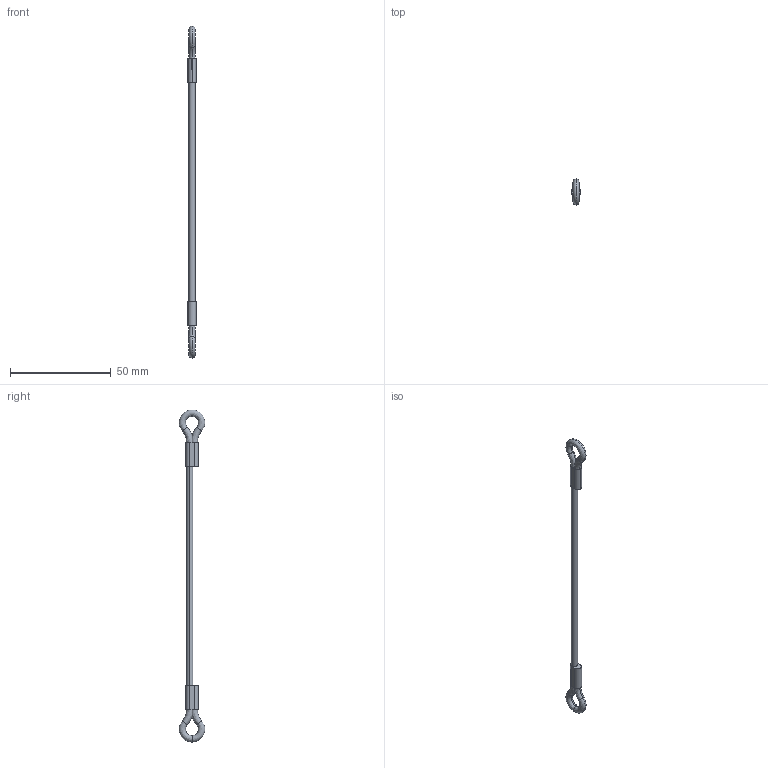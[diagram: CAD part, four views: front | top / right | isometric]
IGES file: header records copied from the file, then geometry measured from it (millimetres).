
Start section: SolidWorks IGES file using analytic representation for surfaces
Global section: file name: C:\Users\ianosborn\Desktop\LA1065_v2\LA1065_v2_20260320_IGES\LA1065.I06-152C1.igs; native system: SolidWorks 2019; preprocessor: SolidWorks 2019; author: IanOsborn; date: 260323.154325; units: millimetre
Bounding box: 3.99 x 12.77 x 165.16 mm (x, y, z)
Surface area: 2239.4 mm2 (no closed solid volume)
Topology: 0 solids, 0 shells, 30 faces, 416 edges, 416 vertices
Faces by surface type: bspline 22, revolution 8
